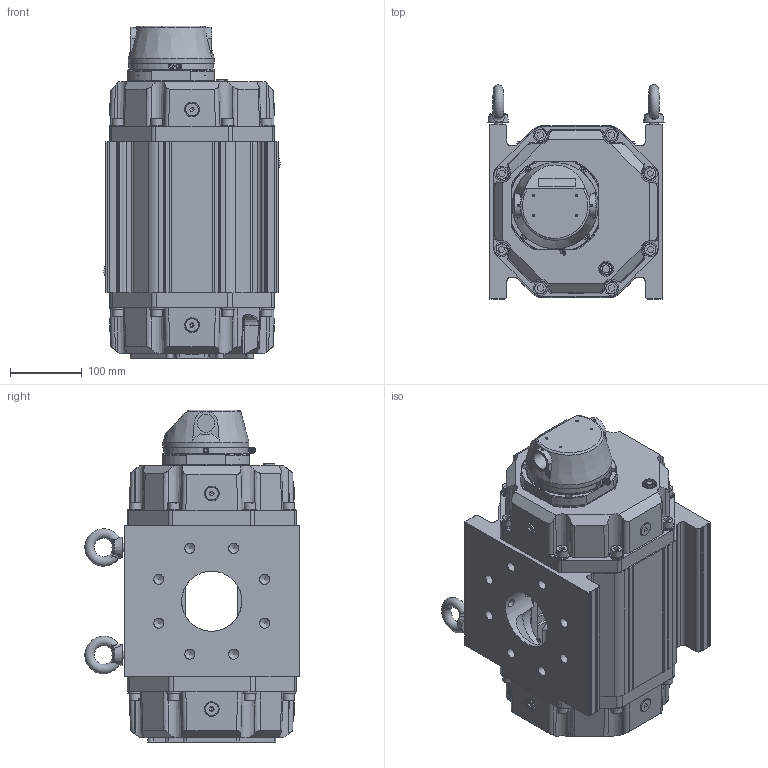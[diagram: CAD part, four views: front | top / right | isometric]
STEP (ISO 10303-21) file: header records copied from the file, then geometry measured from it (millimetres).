
FILE_DESCRIPTION(('STEP AP203'), '1');
FILE_NAME('G160-DN80', '2024-02-08T15:19:45', (''), (''), 'C3D Converter', 'C3D Toolkit', '');
FILE_SCHEMA(('CONFIG_CONTROL_DESIGN'));
Length unit declared in the file: millimetre
Products named in the file (1): G160-3
Bounding box: 246.05 x 299.03 x 463.3 mm (x, y, z)
Volume: 9254596.4 mm3; surface area: 889579.9 mm2
Topology: 3 solids, 3 shells, 1545 faces, 3886 edges, 2426 vertices
Faces by surface type: plane 641, cylinder 417, bspline 192, cone 181, torus 112, sphere 2
Full cylindrical faces by diameter (mm): 2 x12, 2.05 x2, 2.5 x8, 3 x4, 3.175 x1, 3.2 x1, 3.3 x1, 4.2 x4, 4.5 x1, 5.2 x4, 5.774 x9, 6.2 x1, 6.3 x1, 6.35 x4, 7.8 x4, 8 x4, 8.5 x8, 9 x2, 9.4 x4, 10 x2, 11 x9, 11.125 x2, 12 x2, 13.096 x13, 14 x18, 15 x1, 16 x21, 17 x2, 17.6 x4, 18 x11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
Entity records: 89700 total; most frequent: CARTESIAN_POINT 44084, ORIENTED_EDGE 6858, DIRECTION 6303, EDGE_CURVE 3429, AXIS2_PLACEMENT_3D 2480, VERTEX_POINT 2370, EDGE_LOOP 2079, FACE_BOUND 1590
